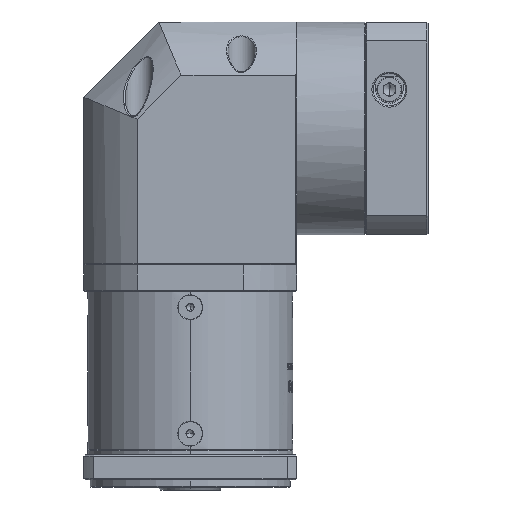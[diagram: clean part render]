
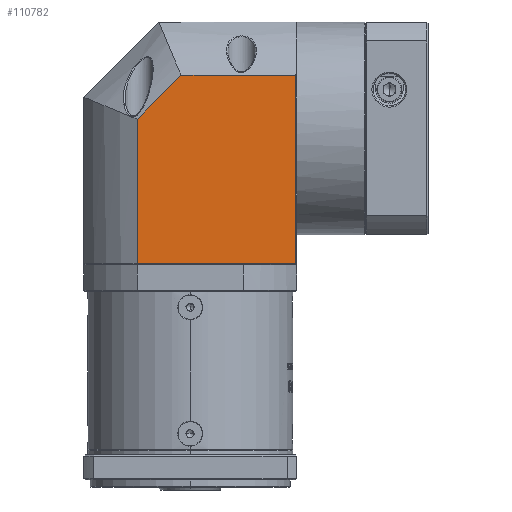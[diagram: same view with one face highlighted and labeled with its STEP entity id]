
A CAD part, front view. The second image highlights one B-rep face of the part: STEP entity #110782.
In plain terms, the highlighted planar face has unit normal (0, -1, 0).
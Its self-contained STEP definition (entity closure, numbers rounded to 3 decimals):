
#5884 = VECTOR ( 'NONE', #159655, 1000. ) ;
#7691 = CARTESIAN_POINT ( 'NONE',  ( 0.426, 108.276, 16.875 ) ) ;
#10606 = DIRECTION ( 'NONE',  ( 0., 1., 0. ) ) ;
#10837 = VERTEX_POINT ( 'NONE', #104151 ) ;
#15250 = CARTESIAN_POINT ( 'NONE',  ( -17.104, 108.276, 38.162 ) ) ;
#15509 = DIRECTION ( 'NONE',  ( 1., 0., 0. ) ) ;
#19574 = LINE ( 'NONE', #15250, #151819 ) ;
#23247 = PLANE ( 'NONE',  #108496 ) ;
#26292 = VECTOR ( 'NONE', #170141, 1000. ) ;
#29628 = LINE ( 'NONE', #94493, #99832 ) ;
#53990 = CARTESIAN_POINT ( 'NONE',  ( 46.609, 108.276, -58.338 ) ) ;
#60392 = ORIENTED_EDGE ( 'NONE', *, *, #114907, .F. ) ;
#63849 = EDGE_CURVE ( 'NONE', #10837, #166747, #123578, .T. ) ;
#64934 = VERTEX_POINT ( 'NONE', #96080 ) ;
#73605 = FACE_OUTER_BOUND ( 'NONE', #111980, .T. ) ;
#83048 = ORIENTED_EDGE ( 'NONE', *, *, #104278, .F. ) ;
#85444 = CARTESIAN_POINT ( 'NONE',  ( 46.109, 108.276, 38.162 ) ) ;
#86039 = EDGE_CURVE ( 'NONE', #10837, #64934, #19574, .T. ) ;
#89543 = CARTESIAN_POINT ( 'NONE',  ( 46.609, 108.276, 38.162 ) ) ;
#90506 = VERTEX_POINT ( 'NONE', #101365 ) ;
#94493 = CARTESIAN_POINT ( 'NONE',  ( 46.609, 108.276, 16.875 ) ) ;
#96080 = CARTESIAN_POINT ( 'NONE',  ( -17.104, 108.276, -0.656 ) ) ;
#96491 = LINE ( 'NONE', #156919, #26292 ) ;
#99832 = VECTOR ( 'NONE', #15509, 1000. ) ;
#101365 = CARTESIAN_POINT ( 'NONE',  ( 46.109, 108.276, 16.875 ) ) ;
#102810 = DIRECTION ( 'NONE',  ( -1., 0., 0. ) ) ;
#104151 = CARTESIAN_POINT ( 'NONE',  ( -17.104, 108.276, -58.338 ) ) ;
#104278 = EDGE_CURVE ( 'NONE', #64934, #112435, #96491, .T. ) ;
#108496 = AXIS2_PLACEMENT_3D ( 'NONE', #89543, #10606, #102810 ) ;
#109194 = DIRECTION ( 'NONE',  ( 0., 0., 1. ) ) ;
#109268 = ORIENTED_EDGE ( 'NONE', *, *, #142725, .F. ) ;
#110782 = ADVANCED_FACE ( 'NONE', ( #73605 ), #23247, .F. ) ;
#111980 = EDGE_LOOP ( 'NONE', ( #115170, #109268, #60392, #83048, #127508 ) ) ;
#112435 = VERTEX_POINT ( 'NONE', #7691 ) ;
#113350 = CARTESIAN_POINT ( 'NONE',  ( 46.109, 108.276, -58.338 ) ) ;
#114907 = EDGE_CURVE ( 'NONE', #112435, #90506, #29628, .T. ) ;
#115170 = ORIENTED_EDGE ( 'NONE', *, *, #63849, .T. ) ;
#123578 = LINE ( 'NONE', #53990, #5884 ) ;
#125320 = DIRECTION ( 'NONE',  ( 0., 0., -1. ) ) ;
#127508 = ORIENTED_EDGE ( 'NONE', *, *, #86039, .F. ) ;
#139731 = VECTOR ( 'NONE', #125320, 1000. ) ;
#142725 = EDGE_CURVE ( 'NONE', #90506, #166747, #143902, .T. ) ;
#143902 = LINE ( 'NONE', #85444, #139731 ) ;
#151819 = VECTOR ( 'NONE', #109194, 1000. ) ;
#156919 = CARTESIAN_POINT ( 'NONE',  ( -17.104, 108.276, -0.656 ) ) ;
#159655 = DIRECTION ( 'NONE',  ( 1., 0., 0. ) ) ;
#166747 = VERTEX_POINT ( 'NONE', #113350 ) ;
#170141 = DIRECTION ( 'NONE',  ( 0.707, 0., 0.707 ) ) ;
